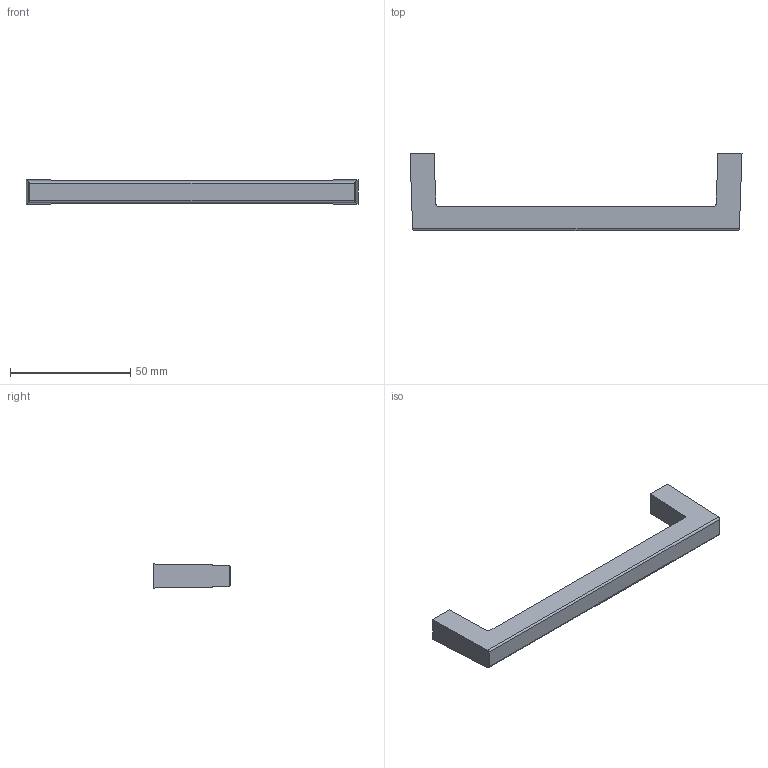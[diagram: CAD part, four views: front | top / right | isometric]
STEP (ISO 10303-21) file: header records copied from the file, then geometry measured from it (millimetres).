
FILE_DESCRIPTION( ( 'STEP AP214' ), '1' );
FILE_NAME( 'C:/Users/KOSH/Desktop/2021/Sunil/New folder/9112938.stp', '2021-11-15T13:04:58', ( '' ), ( '' ), ' ', 'PARTsolutions', ' ' );
FILE_SCHEMA( ( 'AUTOMOTIVE_DESIGN { 1 0 10303 214 1 1 1 1 }' ) );
Length unit declared in the file: millimetre
Products named in the file (1): _9112938
Bounding box: 138 x 32 x 10 mm (x, y, z)
Volume: 16332.6 mm3; surface area: 7219.4 mm2
Topology: 1 solids, 1 shells, 20 faces, 48 edges, 32 vertices
Faces by surface type: plane 12, cylinder 8
Full cylindrical faces by diameter (mm): 4 x2
Entity records: 770 total; most frequent: CARTESIAN_POINT 127, DIRECTION 96, ORIENTED_EDGE 92, EDGE_CURVE 46, AXIS2_PLACEMENT_3D 33, VERTEX_POINT 32, LINE 30, VECTOR 30
